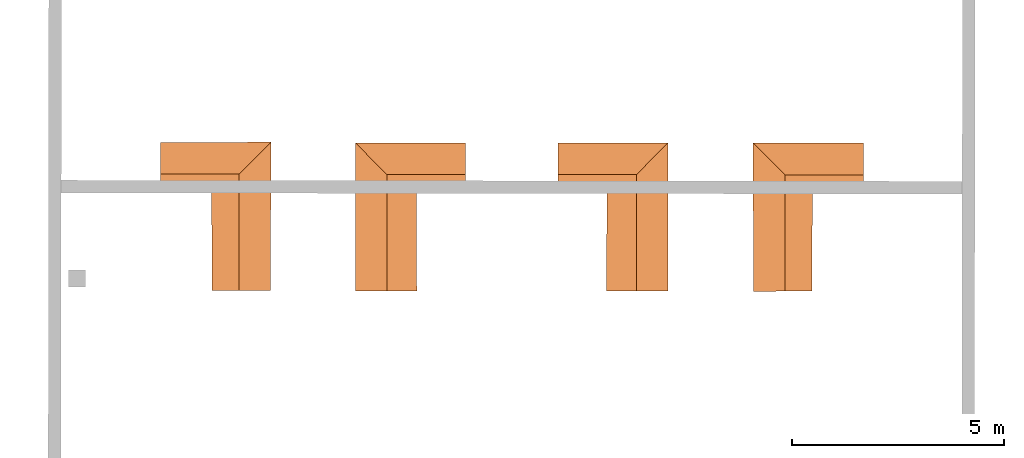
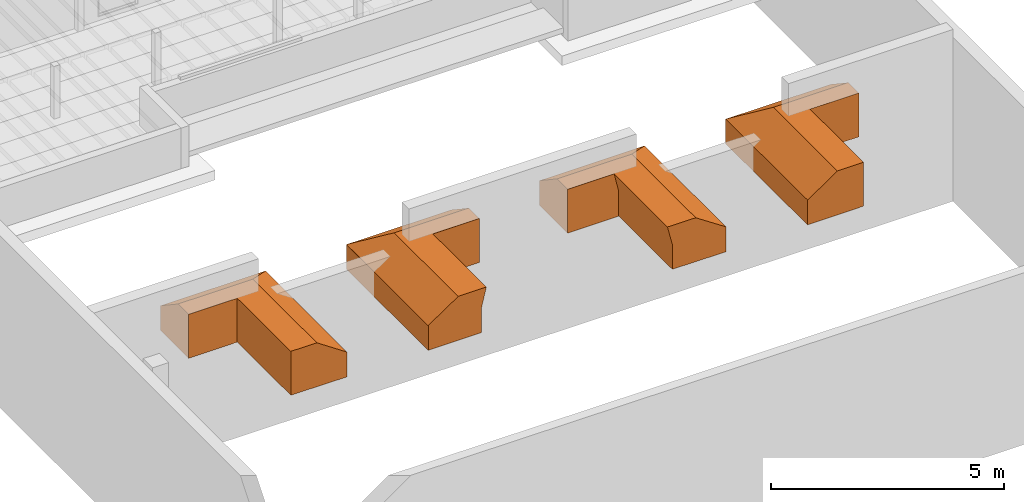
# One storey, part 24 of 24: 4 proxies.
"""IFC2X3 building model written with IfcOpenShell, lengths in metres."""

from ifc_helpers import new_model, entity, si_unit, converted_unit, derived_unit, direction, frame, origin, place, context, subcontext, project, spatial, faceted_brep, source, transform, mapped, material, type_object, type_shapes, element, save


model = new_model("IFC2X3")

# Units and contexts
model_context = context("Model", 3, precision=1e-05, world=origin(), true_north=direction((6.123233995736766e-17, 1.0)))
body_context = subcontext(model_context, "Body", "Model", "MODEL_VIEW")
ifc_project = project(units=[si_unit("LENGTHUNIT", "METRE"), si_unit("AREAUNIT", "SQUARE_METRE"), converted_unit("PLANEANGLEUNIT", "DEGREE", entity("IfcPlaneAngleMeasure", 0.017453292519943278), si_unit("PLANEANGLEUNIT", "RADIAN"), dimensions=[0, 0, 0, 0, 0, 0, 0]), derived_unit("THERMALTRANSMITTANCEUNIT", [(si_unit("MASSUNIT", "GRAM", prefix="KILO"), 1), (si_unit("THERMODYNAMICTEMPERATUREUNIT", "KELVIN"), -1), (si_unit("TIMEUNIT", "SECOND"), -3)])], contexts=[model_context])

# Site, building, storey
site_placement = place(None, frame((1253.6752467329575, 2072.143113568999, 91.49999999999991), z_axis=(0.0, 0.0, 1.0), x_axis=(0.7237211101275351, 0.6900925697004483, 0.0)))
site = spatial("IfcSite", under=ifc_project, at=site_placement, Name="Surface", CompositionType="ELEMENT")
building_placement = place(site_placement, origin())
building = spatial("IfcBuilding", under=site, at=building_placement, CompositionType="ELEMENT")
storey_placement = place(building_placement, frame((0.0, 0.0, -7.049999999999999)))
storey = spatial("IfcBuildingStorey", under=building, at=storey_placement, Name="R-1", CompositionType="ELEMENT", Elevation=-7.049999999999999)

# Proxies
ifc_material = material(Name="<Unnamed>")
building_element_proxy_type_1 = type_object("IfcBuildingElementProxyType", Name="FONDATIONS:FONDATIONS", PredefinedType="NOTDEFINED", material=ifc_material)
shared_shape_1 = source(origin(), body_context, "Body", "Brep", [
    faceted_brep([(172.43076171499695, -9.53491257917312, -4.9), (170.01741478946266, -12.076170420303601, -4.9), (171.0270030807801, -13.027981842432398, -4.9), (172.61281803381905, -11.368987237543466, -4.9), (173.48578371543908, -12.203445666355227, -4.9), (174.3138954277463, -11.334979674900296, -4.9), (172.43076171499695, -9.534912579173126, -5.55), (174.3138954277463, -11.334979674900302, -5.55), (173.48578371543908, -12.20344566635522, -5.55), (172.61281803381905, -11.368987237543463, -5.55), (171.0270030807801, -13.027981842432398, -5.55), (170.01741478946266, -12.076170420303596, -5.55)], [[[0, 1, 2, 3, 4, 5]], [[6, 7, 8, 9, 10, 11]], [[1, 0, 6, 11]], [[2, 1, 11, 10]], [[3, 2, 10, 9]], [[4, 3, 9, 8]], [[5, 4, 8, 7]], [[0, 5, 7, 6]]]),
    faceted_brep([(172.61281803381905, -11.368987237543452, -4.3999999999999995), (173.48578371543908, -12.20344566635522, -4.3999999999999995), (173.79772360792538, -11.876304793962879, -4.3999999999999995), (173.12752797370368, -11.237250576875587, -4.3999999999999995), (172.90097298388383, -11.021222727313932, -4.3999999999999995), (172.45733233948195, -10.5981963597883, -4.3999999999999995), (171.50750455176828, -11.591855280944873, -4.3999999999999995), (171.08777991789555, -12.030948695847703, -4.3999999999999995), (170.55767676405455, -12.585514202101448, -4.3999999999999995), (171.02700308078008, -13.027981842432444, -4.3999999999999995), (172.61281803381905, -11.36898723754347, -4.8999999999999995), (171.02700308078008, -13.027981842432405, -4.8999999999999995), (170.0174147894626, -12.076170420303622, -4.8999999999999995), (171.08386195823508, -10.953199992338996, -4.8999999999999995), (171.757311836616, -10.244056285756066, -4.8999999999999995), (172.43076171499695, -9.534912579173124, -4.8999999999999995), (173.0673420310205, -10.143412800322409, -4.8999999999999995), (173.69061872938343, -10.739196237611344, -4.8999999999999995), (174.3138954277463, -11.334979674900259, -4.8999999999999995), (173.48578371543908, -12.203445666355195, -4.8999999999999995), (170.2887851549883, -12.332010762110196, -4.648852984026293), (174.0063802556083, -11.65748020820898, -4.602119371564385), (173.26656242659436, -10.806037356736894, -4.672173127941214), (172.84418738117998, -10.382082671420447, -4.682096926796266), (172.44398607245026, -10.064115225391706, -4.6511470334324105), (172.44659146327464, -10.168375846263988, -4.602119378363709), (170.89321105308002, -11.639268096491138, -4.675737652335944), (171.53635759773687, -10.997045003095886, -4.6603988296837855)], [[[0, 1, 2, 3, 4, 5, 6, 7, 8, 9]], [[10, 11, 12, 13, 14, 15, 16, 17, 18, 19]], [[11, 9, 8, 20, 12]], [[9, 11, 10, 0]], [[0, 10, 19, 1]], [[1, 19, 18, 21, 2]], [[22, 23, 4]], [[21, 18, 17]], [[23, 15, 24, 25]], [[22, 4, 3]], [[21, 17, 22]], [[21, 3, 2]], [[16, 22, 17]], [[25, 5, 4]], [[21, 22, 3]], [[23, 22, 16]], [[15, 23, 16]], [[4, 23, 25]], [[26, 7, 6]], [[14, 27, 24]], [[20, 8, 7]], [[26, 6, 27]], [[24, 15, 14]], [[27, 5, 25, 24]], [[13, 27, 14]], [[20, 26, 12]], [[27, 6, 5]], [[26, 27, 13]], [[12, 26, 13]], [[7, 26, 20]]]),
])
type_shapes(building_element_proxy_type_1, [shared_shape_1])
proxy_1_placement = place(storey_placement, frame((0.0, 0.0, 7.049999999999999)))
element("IfcBuildingElementProxy", 1, at=proxy_1_placement, inside=storey, type_object=building_element_proxy_type_1, material=ifc_material, Name="FONDATIONS:FONDATIONS", ObjectType="FONDATIONS:FONDATIONS", context=body_context, shape_type="MappedRepresentation", body=[
    mapped(shared_shape_1, transform((0.0, 0.0, 0.0), scale=1.0)),
])
building_element_proxy_type_2 = type_object("IfcBuildingElementProxyType", Name="FONDATIONS1:FONDATIONS", PredefinedType="NOTDEFINED", material=ifc_material)
shared_shape_2 = source(origin(), body_context, "Body", "Brep", [
    faceted_brep([(170.98187976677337, -8.146882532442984, -4.9), (169.09470722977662, -6.351834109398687, -4.9), (168.2665955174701, -7.220300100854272, -4.9), (169.18739912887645, -8.096153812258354, -4.9), (167.605677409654, -9.759051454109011, -4.9), (168.55854120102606, -10.67800546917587, -4.9), (170.98187976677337, -8.146882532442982, -5.55), (168.55854120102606, -10.678005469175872, -5.55), (167.605677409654, -9.759051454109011, -5.55), (169.18739912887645, -8.096153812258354, -5.55), (168.2665955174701, -7.220300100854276, -5.55), (169.09470722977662, -6.351834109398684, -5.55)], [[[0, 1, 2, 3, 4, 5]], [[6, 7, 8, 9, 10, 11]], [[0, 5, 7, 6]], [[5, 4, 8, 7]], [[4, 3, 9, 8]], [[3, 2, 10, 9]], [[2, 1, 11, 10]], [[1, 0, 6, 11]]]),
    faceted_brep([(168.57939447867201, -6.893870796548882, -4.3999999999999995), (168.2674018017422, -7.2210670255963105, -4.3999999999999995), (169.10445328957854, -8.01725705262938, -4.3999999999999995), (168.3540058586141, -8.801570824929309, -4.3999999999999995), (167.89362673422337, -9.282726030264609, -4.3999999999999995), (167.51840301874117, -9.674882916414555, -4.399999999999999), (168.0222659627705, -10.16081477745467, -4.399999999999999), (168.97244783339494, -9.167752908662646, -4.3999999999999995), (169.39236002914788, -8.728890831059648, -4.399999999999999), (169.9226297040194, -8.174691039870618, -4.3999999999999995), (169.2510120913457, -7.534280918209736, -4.3999999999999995), (169.02351535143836, -7.317355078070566, -4.3999999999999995), (169.18739912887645, -8.096153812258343, -4.8999999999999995), (168.26659551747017, -7.220300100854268, -4.8999999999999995), (169.09470722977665, -6.351834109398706, -4.8999999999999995), (169.73338192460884, -6.959331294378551, -4.8999999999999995), (170.35679471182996, -7.552311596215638, -4.8999999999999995), (170.98020749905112, -8.145291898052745, -4.8999999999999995), (169.91153302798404, -9.266043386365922, -4.8999999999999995), (169.23676617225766, -9.973691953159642, -4.8999999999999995), (168.56199931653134, -10.681340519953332, -4.8999999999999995), (167.60567740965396, -9.75905145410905, -4.8999999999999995), (168.3965382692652, -8.927602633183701, -4.8999999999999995), (169.871480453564, -8.822874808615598, -4.67573623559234), (169.21163547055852, -9.480726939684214, -4.660393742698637), (168.29335492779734, -10.422256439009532, -4.651132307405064), (170.4490236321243, -8.160058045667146, -4.648867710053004), (170.35079703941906, -8.162788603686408, -4.602428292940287), (167.56851254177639, -9.723209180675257, -4.687080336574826), (168.16564641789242, -9.082285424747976, -4.6442719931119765), (168.6657139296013, -8.569301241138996, -4.677325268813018), (169.13977489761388, -8.050854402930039, -4.6129197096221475), (168.78802225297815, -6.6744236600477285, -4.6024283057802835), (169.685663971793, -7.385092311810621, -4.67212397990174), (169.2730933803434, -6.9717884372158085, -4.682046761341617)], [[[0, 1, 2, 3, 4, 5, 6, 7, 8, 9, 10, 11]], [[12, 13, 14, 15, 16, 17, 18, 19, 20, 21, 22]], [[23, 8, 7]], [[19, 24, 25]], [[8, 26, 27, 9]], [[23, 7, 24]], [[25, 20, 19]], [[25, 24, 6]], [[18, 24, 19]], [[26, 23, 17]], [[24, 7, 6]], [[23, 24, 18]], [[17, 23, 18]], [[8, 23, 26]], [[6, 5, 28, 21, 20, 25]], [[3, 29, 4]], [[30, 22, 29]], [[2, 31, 12, 30]], [[28, 4, 29]], [[21, 28, 29]], [[30, 12, 22]], [[28, 5, 4]], [[3, 2, 30]], [[29, 22, 21]], [[3, 30, 29]], [[1, 13, 12, 31, 2]], [[13, 1, 0, 32, 14]], [[33, 34, 11]], [[16, 27, 26, 17]], [[14, 32, 34]], [[33, 11, 10]], [[27, 16, 33]], [[27, 10, 9]], [[15, 33, 16]], [[32, 0, 11]], [[27, 33, 10]], [[34, 33, 15]], [[14, 34, 15]], [[11, 34, 32]]]),
])
type_shapes(building_element_proxy_type_2, [shared_shape_2])
proxy_2_placement = place(storey_placement, frame((0.0, 0.0, 7.049999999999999)))
element("IfcBuildingElementProxy", 2, at=proxy_2_placement, inside=storey, type_object=building_element_proxy_type_2, material=ifc_material, Name="FONDATIONS1:FONDATIONS", ObjectType="FONDATIONS1:FONDATIONS", context=body_context, shape_type="MappedRepresentation", body=[
    mapped(shared_shape_2, transform((0.0, 0.0, 0.0), scale=1.0)),
])
building_element_proxy_type_3 = type_object("IfcBuildingElementProxyType", Name="FONDATIONS2:FONDATIONS", PredefinedType="NOTDEFINED", material=ifc_material)
shared_shape_3 = source(origin(), body_context, "Body", "Brep", [
    faceted_brep([(165.63463655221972, -3.0481051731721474, -4.9), (163.22159240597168, -5.589044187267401, -4.9), (164.18481061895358, -6.497139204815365, -4.9), (165.77062557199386, -4.838144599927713, -4.9), (166.68926793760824, -5.716264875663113, -4.9), (167.51737964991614, -4.84779888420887, -4.9), (165.63463655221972, -3.0481051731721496, -5.55), (167.51737964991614, -4.847798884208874, -5.55), (166.68926793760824, -5.716264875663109, -5.55), (165.77062557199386, -4.838144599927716, -5.55), (164.18481061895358, -6.497139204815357, -5.55), (163.22159240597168, -5.589044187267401, -5.55)], [[[0, 1, 2, 3, 4, 5]], [[6, 7, 8, 9, 10, 11]], [[1, 0, 6, 11]], [[2, 1, 11, 10]], [[3, 2, 10, 9]], [[4, 3, 9, 8]], [[5, 4, 8, 7]], [[0, 5, 7, 6]]]),
    faceted_brep([(163.76369515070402, -6.1001233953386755, -4.3999999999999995), (164.27303338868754, -6.580313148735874, -4.3999999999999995), (165.02078055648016, -5.793424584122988, -4.3999999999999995), (165.47950314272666, -5.310689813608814, -4.3999999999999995), (165.85337672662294, -4.917245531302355, -4.3999999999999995), (166.68846354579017, -5.7154959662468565, -4.3999999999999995), (167.00045622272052, -5.388299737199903, -4.3999999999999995), (166.32883861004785, -4.747889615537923, -4.3999999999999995), (166.10134187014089, -4.530963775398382, -4.3999999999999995), (165.65722099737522, -4.107479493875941, -4.3999999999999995), (164.71045807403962, -5.103801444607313, -4.3999999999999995), (164.29205680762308, -5.544104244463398, -4.3999999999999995), (163.21809671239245, -5.585748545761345, -4.8999999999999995), (164.28677118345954, -4.464997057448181, -4.8999999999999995), (164.96153803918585, -3.7573484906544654, -4.8999999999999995), (165.63630489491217, -3.049699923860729, -4.8999999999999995), (166.27348053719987, -3.658769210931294, -4.8999999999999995), (166.895430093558, -4.253284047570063, -4.8999999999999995), (167.5173796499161, -4.8477988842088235, -4.8999999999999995), (166.68926793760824, -5.716264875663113, -4.8999999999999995), (165.77062557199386, -4.83814459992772, -4.8999999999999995), (164.9777180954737, -5.667641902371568, -4.8999999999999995), (164.18481061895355, -6.497139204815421, -4.8999999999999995), (164.09629686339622, -5.151214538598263, -4.67573623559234), (164.73941654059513, -4.509080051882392, -4.660393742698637), (165.64671557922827, -3.576194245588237, -4.651132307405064), (163.49213148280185, -5.844100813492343, -4.648867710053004), (165.64875297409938, -3.679230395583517, -4.602428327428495), (164.2354646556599, -6.54489440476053, -4.612919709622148), (165.20869396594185, -5.512653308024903, -4.6442719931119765), (164.7087628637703, -6.025817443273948, -4.677325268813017), (165.8058642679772, -4.871828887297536, -4.687080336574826), (167.20973607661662, -5.169474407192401, -4.602428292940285), (166.4704349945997, -4.319282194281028, -4.67212397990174), (166.04782660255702, -3.895109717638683, -4.682046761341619)], [[[0, 1, 2, 3, 4, 5, 6, 7, 8, 9, 10, 11]], [[12, 13, 14, 15, 16, 17, 18, 19, 20, 21, 22]], [[23, 11, 10]], [[14, 24, 25]], [[26, 0, 11]], [[23, 10, 24]], [[25, 15, 14]], [[24, 9, 27, 25]], [[13, 24, 14]], [[26, 23, 12]], [[24, 10, 9]], [[23, 24, 13]], [[12, 23, 13]], [[11, 23, 26]], [[22, 28, 1, 0, 26, 12]], [[2, 29, 3]], [[30, 21, 29]], [[1, 28, 22, 30]], [[31, 3, 29]], [[20, 31, 29]], [[30, 22, 21]], [[31, 4, 3]], [[2, 1, 30]], [[29, 21, 20]], [[2, 30, 29]], [[19, 5, 4, 31, 20]], [[5, 19, 18, 32, 6]], [[33, 34, 8]], [[32, 18, 17]], [[34, 15, 25, 27]], [[33, 8, 7]], [[32, 17, 33]], [[32, 7, 6]], [[16, 33, 17]], [[27, 9, 8]], [[32, 33, 7]], [[34, 33, 16]], [[15, 34, 16]], [[8, 34, 27]]]),
])
type_shapes(building_element_proxy_type_3, [shared_shape_3])
proxy_3_placement = place(storey_placement, frame((0.0, 0.0, 7.049999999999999)))
element("IfcBuildingElementProxy", 3, at=proxy_3_placement, inside=storey, type_object=building_element_proxy_type_3, material=ifc_material, Name="FONDATIONS2:FONDATIONS", ObjectType="FONDATIONS2:FONDATIONS", context=body_context, shape_type="MappedRepresentation", body=[
    mapped(shared_shape_3, transform((0.0, 0.0, 0.0), scale=1.0)),
])
building_element_proxy_type_4 = type_object("IfcBuildingElementProxyType", Name="FONDATIONS3:FONDATIONS", PredefinedType="NOTDEFINED", material=ifc_material)
shared_shape_4 = source(origin(), body_context, "Body", "Brep", [
    faceted_brep([(164.48492997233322, -1.9582931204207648, -4.9), (162.59736590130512, -0.16287227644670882, -4.9), (161.76925418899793, -1.0313382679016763, -4.9), (162.644273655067, -1.8636428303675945, -4.9), (161.06255193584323, -3.5265404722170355, -4.9), (162.06128733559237, -4.489733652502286, -4.9), (164.48492997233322, -1.9582931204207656, -5.55), (162.06128733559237, -4.489733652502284, -5.55), (161.06255193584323, -3.526540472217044, -5.55), (162.644273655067, -1.8636428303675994, -5.55), (161.76925418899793, -1.0313382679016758, -5.55), (162.59736590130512, -0.1628722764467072, -5.55)], [[[0, 1, 2, 3, 4, 5]], [[6, 7, 8, 9, 10, 11]], [[0, 5, 7, 6]], [[5, 4, 8, 7]], [[4, 3, 9, 8]], [[3, 2, 10, 9]], [[2, 1, 11, 10]], [[1, 0, 6, 11]]]),
    faceted_brep([(161.76925418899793, -1.0313382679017, -4.3999999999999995), (162.644273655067, -1.863642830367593, -4.3999999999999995), (161.0625519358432, -3.526540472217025, -4.3999999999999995), (161.52683307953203, -3.974299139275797, -4.3999999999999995), (162.47420921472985, -2.9783024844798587, -4.3999999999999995), (162.8928504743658, -2.5381760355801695, -4.3999999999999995), (163.4215853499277, -1.9823058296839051, -4.3999999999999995), (162.75138971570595, -1.3432516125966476, -4.3999999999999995), (162.52483472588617, -1.1272237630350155, -4.3999999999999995), (162.08119408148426, -0.704197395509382, -4.3999999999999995), (162.644273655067, -1.8636428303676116, -4.8999999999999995), (161.76925418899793, -1.0313382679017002, -4.8999999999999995), (162.59736590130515, -0.16287227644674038, -4.8999999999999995), (163.23544386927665, -0.7698018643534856, -4.9), (163.86018692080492, -1.3640474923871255, -4.9), (164.48492997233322, -1.958293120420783, -4.8999999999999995), (163.41393317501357, -3.0769253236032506, -4.9), (162.73761025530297, -3.7833294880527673, -4.9), (162.06128733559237, -4.489733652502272, -4.8999999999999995), (161.0625519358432, -3.5265404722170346, -4.8999999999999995), (161.7952862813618, -4.233198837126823, -4.651147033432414), (162.2898507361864, -0.48537280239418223, -4.602119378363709), (163.18707832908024, -1.1948911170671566, -4.672173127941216), (162.774871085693, -0.7819298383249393, -4.682096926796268), (163.85143044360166, -1.9725989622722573, -4.602119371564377), (163.95081831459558, -1.9703545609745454, -4.648852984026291), (163.3735087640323, -2.633456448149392, -4.675737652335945), (162.71357331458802, -3.2913341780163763, -4.660398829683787)], [[[0, 1, 2, 3, 4, 5, 6, 7, 8, 9]], [[10, 11, 12, 13, 14, 15, 16, 17, 18, 19]], [[2, 19, 18, 20, 3]], [[1, 10, 19, 2]], [[0, 11, 10, 1]], [[11, 0, 9, 21, 12]], [[22, 23, 8]], [[14, 24, 25, 15]], [[12, 21, 23]], [[22, 8, 7]], [[24, 14, 22]], [[24, 7, 6]], [[13, 22, 14]], [[21, 9, 8]], [[24, 22, 7]], [[23, 22, 13]], [[12, 23, 13]], [[8, 23, 21]], [[26, 5, 4]], [[17, 27, 20]], [[5, 25, 24, 6]], [[26, 4, 27]], [[20, 18, 17]], [[20, 27, 3]], [[16, 27, 17]], [[25, 26, 15]], [[27, 4, 3]], [[26, 27, 16]], [[15, 26, 16]], [[5, 26, 25]]]),
])
type_shapes(building_element_proxy_type_4, [shared_shape_4])
proxy_4_placement = place(storey_placement, frame((-0.2833569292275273, 0.2946434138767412, 7.049999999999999)))
element("IfcBuildingElementProxy", 4, at=proxy_4_placement, inside=storey, type_object=building_element_proxy_type_4, material=ifc_material, Name="FONDATIONS3:FONDATIONS", ObjectType="FONDATIONS3:FONDATIONS", context=body_context, shape_type="MappedRepresentation", body=[
    mapped(shared_shape_4, transform((0.0, 0.0, 0.0), scale=1.0)),
])

save(model, "model.ifc")
